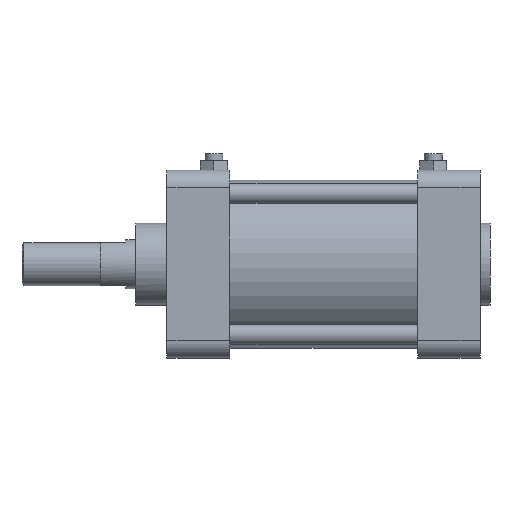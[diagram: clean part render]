
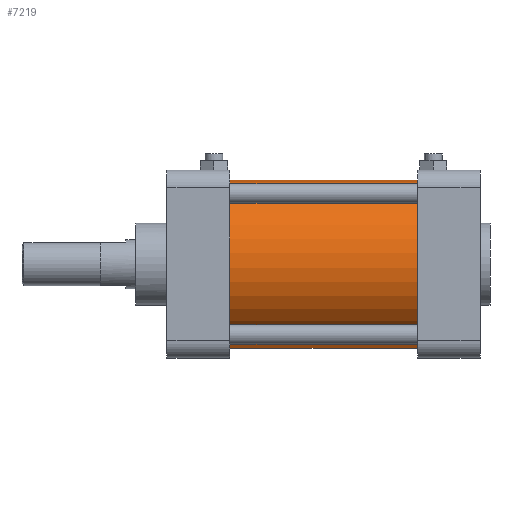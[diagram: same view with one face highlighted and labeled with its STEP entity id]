
A CAD part, front view. The second image highlights one B-rep face of the part: STEP entity #7219.
In plain terms, the highlighted cylindrical face has radius 43 mm (diameter 86 mm), a partial arc.
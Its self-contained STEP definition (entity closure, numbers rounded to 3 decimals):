
#66 = CARTESIAN_POINT ( 'NONE',  ( 48., 0., -43. ) ) ;
#221 = LINE ( 'NONE', #3791, #597 ) ;
#252 = VERTEX_POINT ( 'NONE', #66 ) ;
#597 = VECTOR ( 'NONE', #2187, 1000. ) ;
#633 = CARTESIAN_POINT ( 'NONE',  ( -29.1, 0., 0. ) ) ;
#654 = DIRECTION ( 'NONE',  ( -1., 0., 0. ) ) ;
#909 = VERTEX_POINT ( 'NONE', #5575 ) ;
#1758 = VERTEX_POINT ( 'NONE', #6678 ) ;
#1895 = CARTESIAN_POINT ( 'NONE',  ( 48., 0., 43. ) ) ;
#2047 = CIRCLE ( 'NONE', #2275, 43. ) ;
#2187 = DIRECTION ( 'NONE',  ( -1., 0., 0. ) ) ;
#2223 = EDGE_CURVE ( 'NONE', #252, #7038, #5748, .T. ) ;
#2275 = AXIS2_PLACEMENT_3D ( 'NONE', #6203, #2421, #2927 ) ;
#2421 = DIRECTION ( 'NONE',  ( -1., 0., 0. ) ) ;
#2603 = DIRECTION ( 'NONE',  ( 0., 0., 1. ) ) ;
#2781 = DIRECTION ( 'NONE',  ( 0., 0., 1. ) ) ;
#2927 = DIRECTION ( 'NONE',  ( 0., 0., 1. ) ) ;
#3526 = VECTOR ( 'NONE', #654, 1000. ) ;
#3791 = CARTESIAN_POINT ( 'NONE',  ( -29.1, 0., 43. ) ) ;
#4512 = DIRECTION ( 'NONE',  ( -1., 0., 0. ) ) ;
#4597 = FACE_OUTER_BOUND ( 'NONE', #5201, .T. ) ;
#4824 = ORIENTED_EDGE ( 'NONE', *, *, #6835, .T. ) ;
#4948 = DIRECTION ( 'NONE',  ( -1., 0., 0. ) ) ;
#5105 = CARTESIAN_POINT ( 'NONE',  ( 48., 0., 0. ) ) ;
#5201 = EDGE_LOOP ( 'NONE', ( #6384, #7084, #4824, #5293 ) ) ;
#5293 = ORIENTED_EDGE ( 'NONE', *, *, #5498, .F. ) ;
#5442 = LINE ( 'NONE', #6048, #3526 ) ;
#5498 = EDGE_CURVE ( 'NONE', #1758, #909, #2047, .T. ) ;
#5575 = CARTESIAN_POINT ( 'NONE',  ( -48., 0., 43. ) ) ;
#5748 = CIRCLE ( 'NONE', #7397, 43. ) ;
#5903 = CYLINDRICAL_SURFACE ( 'NONE', #6026, 43. ) ;
#6026 = AXIS2_PLACEMENT_3D ( 'NONE', #633, #4948, #2603 ) ;
#6048 = CARTESIAN_POINT ( 'NONE',  ( -29.1, 0., -43. ) ) ;
#6203 = CARTESIAN_POINT ( 'NONE',  ( -48., 0., 0. ) ) ;
#6384 = ORIENTED_EDGE ( 'NONE', *, *, #7437, .F. ) ;
#6678 = CARTESIAN_POINT ( 'NONE',  ( -48., 0., -43. ) ) ;
#6835 = EDGE_CURVE ( 'NONE', #7038, #909, #221, .T. ) ;
#7038 = VERTEX_POINT ( 'NONE', #1895 ) ;
#7084 = ORIENTED_EDGE ( 'NONE', *, *, #2223, .T. ) ;
#7219 = ADVANCED_FACE ( 'NONE', ( #4597 ), #5903, .T. ) ;
#7397 = AXIS2_PLACEMENT_3D ( 'NONE', #5105, #4512, #2781 ) ;
#7437 = EDGE_CURVE ( 'NONE', #252, #1758, #5442, .T. ) ;
